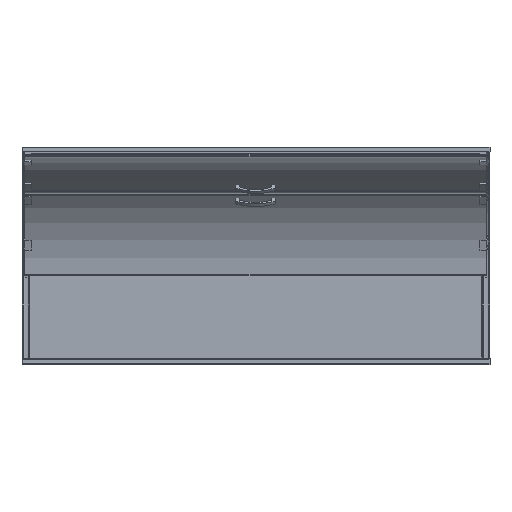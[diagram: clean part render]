
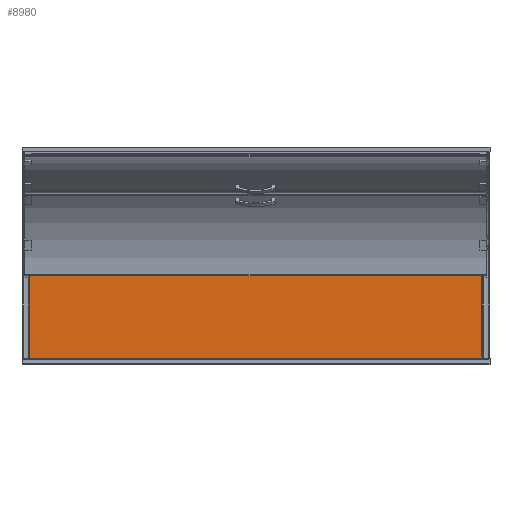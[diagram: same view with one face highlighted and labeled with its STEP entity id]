
A CAD part, left-side view. The second image highlights one B-rep face of the part: STEP entity #8980.
In plain terms, the highlighted planar face has unit normal (-1, 0, 0).
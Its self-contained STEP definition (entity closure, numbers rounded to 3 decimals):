
#83 = CARTESIAN_POINT ( 'NONE',  ( 870.5, 33., -862.35 ) ) ;
#267 = VERTEX_POINT ( 'NONE', #9587 ) ;
#457 = DIRECTION ( 'NONE',  ( 0., 0., 1. ) ) ;
#1071 = EDGE_LOOP ( 'NONE', ( #8388, #2918, #8976, #12341 ) ) ;
#2147 = EDGE_CURVE ( 'NONE', #3925, #267, #7688, .T. ) ;
#2552 = LINE ( 'NONE', #4519, #11414 ) ;
#2560 = DIRECTION ( 'NONE',  ( 0., 1., 0. ) ) ;
#2918 = ORIENTED_EDGE ( 'NONE', *, *, #2147, .F. ) ;
#3734 = CARTESIAN_POINT ( 'NONE',  ( 870.5, 33., -862.35 ) ) ;
#3779 = EDGE_CURVE ( 'NONE', #3925, #8590, #10673, .T. ) ;
#3925 = VERTEX_POINT ( 'NONE', #3930 ) ;
#3930 = CARTESIAN_POINT ( 'NONE',  ( 870.5, 33., -862.35 ) ) ;
#4034 = AXIS2_PLACEMENT_3D ( 'NONE', #6695, #10866, #11989 ) ;
#4345 = VERTEX_POINT ( 'NONE', #5550 ) ;
#4519 = CARTESIAN_POINT ( 'NONE',  ( 870.5, 33., -512.35 ) ) ;
#5550 = CARTESIAN_POINT ( 'NONE',  ( 870.5, 1868., -512.35 ) ) ;
#5600 = DIRECTION ( 'NONE',  ( 0., 1., 0. ) ) ;
#5797 = LINE ( 'NONE', #7880, #11824 ) ;
#5831 = CARTESIAN_POINT ( 'NONE',  ( 870.5, 33., -512.35 ) ) ;
#6378 = PLANE ( 'NONE',  #4034 ) ;
#6695 = CARTESIAN_POINT ( 'NONE',  ( 870.5, 33., -862.35 ) ) ;
#7688 = LINE ( 'NONE', #83, #9046 ) ;
#7880 = CARTESIAN_POINT ( 'NONE',  ( 870.5, 1868., -862.35 ) ) ;
#8152 = EDGE_CURVE ( 'NONE', #267, #4345, #5797, .T. ) ;
#8388 = ORIENTED_EDGE ( 'NONE', *, *, #8152, .F. ) ;
#8590 = VERTEX_POINT ( 'NONE', #5831 ) ;
#8976 = ORIENTED_EDGE ( 'NONE', *, *, #3779, .T. ) ;
#8980 = ADVANCED_FACE ( 'NONE', ( #9782 ), #6378, .T. ) ;
#9046 = VECTOR ( 'NONE', #2560, 1000. ) ;
#9587 = CARTESIAN_POINT ( 'NONE',  ( 870.5, 1868., -862.35 ) ) ;
#9782 = FACE_OUTER_BOUND ( 'NONE', #1071, .T. ) ;
#10077 = EDGE_CURVE ( 'NONE', #8590, #4345, #2552, .T. ) ;
#10673 = LINE ( 'NONE', #3734, #13168 ) ;
#10866 = DIRECTION ( 'NONE',  ( -1., 0., 0. ) ) ;
#11198 = DIRECTION ( 'NONE',  ( 0., 0., 1. ) ) ;
#11414 = VECTOR ( 'NONE', #5600, 1000. ) ;
#11824 = VECTOR ( 'NONE', #457, 1000. ) ;
#11989 = DIRECTION ( 'NONE',  ( 0., 0., 1. ) ) ;
#12341 = ORIENTED_EDGE ( 'NONE', *, *, #10077, .T. ) ;
#13168 = VECTOR ( 'NONE', #11198, 1000. ) ;
